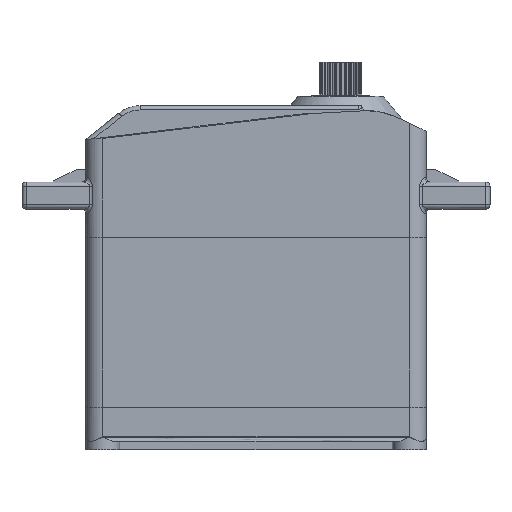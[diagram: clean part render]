
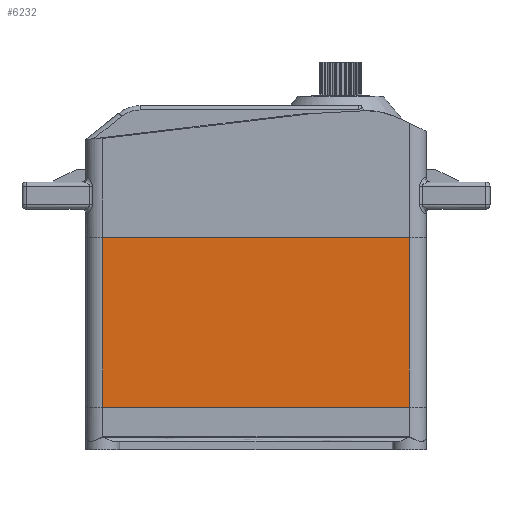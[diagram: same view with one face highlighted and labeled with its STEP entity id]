
A CAD part, top view. The second image highlights one B-rep face of the part: STEP entity #6232.
In plain terms, the highlighted planar face has unit normal (0, 0, 1).
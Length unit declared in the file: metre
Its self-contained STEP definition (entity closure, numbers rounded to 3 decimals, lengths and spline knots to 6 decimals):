
#157=PLANE('',#7734);
#374=LINE('',#10587,#937);
#376=LINE('',#10590,#939);
#444=LINE('',#10761,#1007);
#445=LINE('',#10762,#1008);
#937=VECTOR('',#8569,1.);
#939=VECTOR('',#8573,1.);
#1007=VECTOR('',#8709,1.);
#1008=VECTOR('',#8710,1.);
#1712=ORIENTED_EDGE('',*,*,#3473,.F.);
#1713=ORIENTED_EDGE('',*,*,#3560,.T.);
#1714=ORIENTED_EDGE('',*,*,#3475,.F.);
#1715=ORIENTED_EDGE('',*,*,#3561,.T.);
#3473=EDGE_CURVE('',#4375,#4387,#374,.T.);
#3475=EDGE_CURVE('',#4391,#4379,#376,.T.);
#3560=EDGE_CURVE('',#4375,#4379,#444,.F.);
#3561=EDGE_CURVE('',#4391,#4387,#445,.T.);
#4375=VERTEX_POINT('',#10495);
#4379=VERTEX_POINT('',#10513);
#4387=VERTEX_POINT('',#10539);
#4391=VERTEX_POINT('',#10557);
#5174=EDGE_LOOP('',(#1712,#1713,#1714,#1715));
#5535=FACE_BOUND('',#5174,.T.);
#6232=ADVANCED_FACE('',(#5535),#157,.T.);
#7734=AXIS2_PLACEMENT_3D('',#10760,#8707,#8708);
#8569=DIRECTION('',(-1.,0.,0.));
#8573=DIRECTION('',(1.,0.,0.));
#8707=DIRECTION('',(0.,0.,1.));
#8708=DIRECTION('',(1.,0.,0.));
#8709=DIRECTION('',(0.,-1.,0.));
#8710=DIRECTION('',(0.,-1.,0.));
#10495=CARTESIAN_POINT('',(0.01805,0.005,0.01005));
#10513=CARTESIAN_POINT('',(0.01805,0.025,0.01005));
#10539=CARTESIAN_POINT('',(-0.01805,0.005,0.01005));
#10557=CARTESIAN_POINT('',(-0.01805,0.025,0.01005));
#10587=CARTESIAN_POINT('',(0.02005,0.005,0.01005));
#10590=CARTESIAN_POINT('',(0.02005,0.025,0.01005));
#10760=CARTESIAN_POINT('',(0.02005,0.0405,0.01005));
#10761=CARTESIAN_POINT('',(0.01805,0.0375,0.01005));
#10762=CARTESIAN_POINT('',(-0.01805,0.0405,0.01005));
